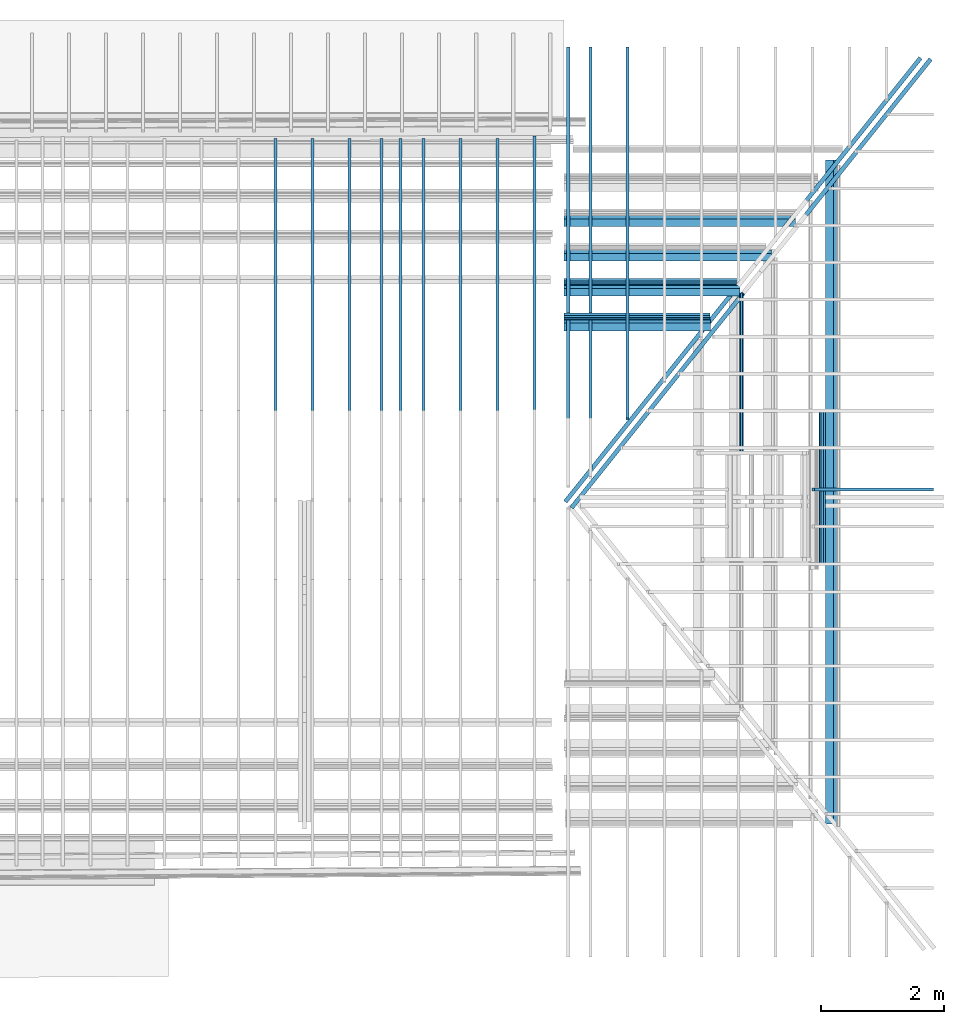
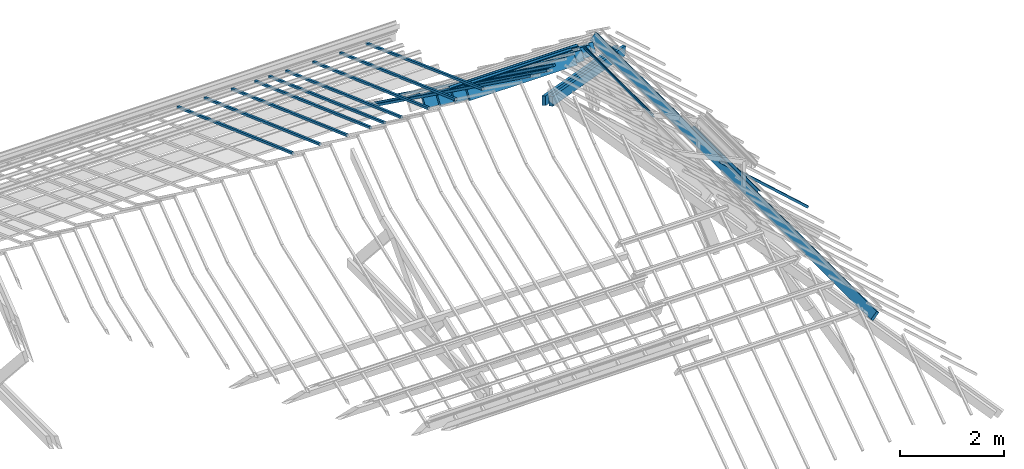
# One storey, part 14 of 18: 24 beams.
"""IFC2X3 building model written with IfcOpenShell, lengths in centimetres."""

import ifcopenshell
import ifcopenshell.guid

model = None  # the IFC model being written
_history = None  # IfcOwnerHistory: only IFC2X3 demands one
_inside = {}  # id of a spatial element -> (the spatial element, [elements in it])
_under = {}  # id of a project, library or spatial element -> (it, [spatial elements below it])
_declared = {}  # id of a project -> (the project, [libraries it declares])
_typed = {}  # id of a type object -> (the type object, [elements of that type])
_made_of = {}  # id of a material, layer set ... -> (it, [elements and type objects made of it])


def new_model(schema):
    """Start an empty IFC model of exactly this schema.

    Asked for "IFC4X3", IfcOpenShell would pick the latest addendum, in which some entities
    have other attributes; the version numbers below select the first issue.
    IFC2X3 requires an IfcOwnerHistory on every rooted entity: one is made here for all.
    """
    global model, _history
    if schema == "IFC4X3":
        model = ifcopenshell.file(schema_version=(4, 3, 0, 0))
    else:
        model = ifcopenshell.file(schema=schema)
    _inside.clear()
    _under.clear()
    _declared.clear()
    _typed.clear()
    _made_of.clear()
    _history = None
    if model.schema == "IFC2X3":
        org = make("IfcOrganization", Name="unknown")
        user = make(
            "IfcPersonAndOrganization",
            ThePerson=make("IfcPerson", FamilyName="unknown"),
            TheOrganization=org,
        )
        app = make(
            "IfcApplication",
            ApplicationDeveloper=org,
            Version="unknown",
            ApplicationFullName="unknown",
            ApplicationIdentifier="unknown",
        )
        _history = make(
            "IfcOwnerHistory",
            OwningUser=user,
            OwningApplication=app,
            ChangeAction="ADDED",
            CreationDate=0,
        )
    return model


def make(cls, **values):
    """One entity of the class cls with the attributes given. An attribute that is None is left unset."""
    return model.create_entity(
        cls, **{name: value for name, value in values.items() if value is not None}
    )


def entity(cls, *values):
    """Any entity or typed value of the class cls, its attributes in the order of the schema. None: left unset."""
    e = model.create_entity(cls)
    for i, value in enumerate(values):
        if value is not None:
            e[i] = value
    return e


def rooted(cls, **values):
    """An entity with a GlobalId (a new one), such as an element, a storey or a relation."""
    return make(cls, GlobalId=ifcopenshell.guid.new(), OwnerHistory=_history, **values)


def si_unit(unit_type, name, prefix=None):
    """IfcSIUnit, for example si_unit("LENGTHUNIT", "METRE", prefix="MILLI")."""
    return make("IfcSIUnit", UnitType=unit_type, Prefix=prefix, Name=name)


def converted_unit(unit_type, name, factor, base, dimensions=None, offset=None):
    """IfcConversionBasedUnit, such as the inch: factor (a typed value) times the base unit."""
    return make(
        "IfcConversionBasedUnit"
        if offset is None
        else "IfcConversionBasedUnitWithOffset",
        ConversionOffset=offset,
        Dimensions=None
        if dimensions is None
        else entity("IfcDimensionalExponents", *dimensions),
        UnitType=unit_type,
        Name=name,
        ConversionFactor=make(
            "IfcMeasureWithUnit", ValueComponent=factor, UnitComponent=base
        ),
    )


def assignment(units):
    """IfcUnitAssignment: the units of a project."""
    return None if units is None else make("IfcUnitAssignment", Units=units)


def point(xyz):
    """IfcCartesianPoint."""
    return None if xyz is None else make("IfcCartesianPoint", Coordinates=xyz)


def direction(xyz):
    """IfcDirection."""
    return None if xyz is None else make("IfcDirection", DirectionRatios=xyz)


def frame(location, z_axis=None, x_axis=None):
    """IfcAxis2Placement3D, a coordinate frame: its origin and axes. An axis left out is left unset."""
    return make(
        "IfcAxis2Placement3D",
        Location=point(location),
        Axis=direction(z_axis),
        RefDirection=direction(x_axis),
    )


def frame_2d(location, x_axis=None):
    """IfcAxis2Placement2D, a coordinate frame in the plane: its origin and x axis."""
    return make(
        "IfcAxis2Placement2D", Location=point(location), RefDirection=direction(x_axis)
    )


def origin():
    """The frame at (0, 0, 0) with its axes left unset."""
    return frame((0.0, 0.0, 0.0))


def place(relative_to, where):
    """IfcLocalPlacement: puts the frame where relative to a parent placement (None: the world)."""
    return make(
        "IfcLocalPlacement", PlacementRelTo=relative_to, RelativePlacement=where
    )


def context(
    kind, dimensions, precision=None, world=None, true_north=None, identifier=None
):
    """IfcGeometricRepresentationContext, for example the 3D "Model" context."""
    return make(
        "IfcGeometricRepresentationContext",
        ContextIdentifier=identifier,
        ContextType=kind,
        CoordinateSpaceDimension=dimensions,
        Precision=precision,
        WorldCoordinateSystem=world,
        TrueNorth=true_north,
    )


def subcontext(parent, identifier, kind, view, scale=None):
    """IfcGeometricRepresentationSubContext, for example "Body" below "Model"."""
    return make(
        "IfcGeometricRepresentationSubContext",
        ContextIdentifier=identifier,
        ContextType=kind,
        ParentContext=parent,
        TargetScale=scale,
        TargetView=view,
    )


def project(units=None, contexts=None):
    """IfcProject with its units and contexts."""
    return rooted(
        "IfcProject",
        Name="project",
        RepresentationContexts=contexts,
        UnitsInContext=assignment(units),
    )


def spatial(cls, under=None, at=None, **own):
    """A site, building, storey or space (cls), placed at a placement, below another one or the project."""
    s = rooted(cls, ObjectPlacement=at, **own)
    if under is not None:
        _under.setdefault(under.id(), (under, []))[1].append(s)
    return s


def polyline(points):
    """IfcPolyline through the points."""
    return make("IfcPolyline", Points=[point(p) for p in points])


def circle_curve(where, radius):
    """IfcCircle in the frame where."""
    return make("IfcCircle", Position=where, Radius=radius)


def parameter(value):
    """IfcParameterValue: where a trimmed curve begins or ends, as a parameter of its basis curve."""
    return model.create_entity("IfcParameterValue", value)


def trimmed(basis, trim1, trim2, sense, master):
    """IfcTrimmedCurve: the piece of a basis curve between two trims."""
    return make(
        "IfcTrimmedCurve",
        BasisCurve=basis,
        Trim1=trim1,
        Trim2=trim2,
        SenseAgreement=sense,
        MasterRepresentation=master,
    )


def segment(curve, same_sense, transition):
    """IfcCompositeCurveSegment."""
    return make(
        "IfcCompositeCurveSegment",
        Transition=transition,
        SameSense=same_sense,
        ParentCurve=curve,
    )


def composite_curve(segments, self_intersect=None):
    """IfcCompositeCurve: segments joined end to end."""
    return make("IfcCompositeCurve", Segments=segments, SelfIntersect=self_intersect)


def profile(cls, at=None, kind="AREA", **sizes):
    """A parametric profile (cls). Its sizes go by their IFC names, for example OverallWidth=200.0."""
    return make(cls, ProfileType=kind, Position=at, **sizes)


def rectangle(**sizes):
    """IfcRectangleProfileDef."""
    return profile("IfcRectangleProfileDef", **sizes)


def outline(outer, holes=None, kind="AREA"):
    """IfcArbitraryClosedProfileDef: a profile drawn as a closed curve; with holes, ...WithVoids."""
    if holes is None:
        return make("IfcArbitraryClosedProfileDef", ProfileType=kind, OuterCurve=outer)
    return make(
        "IfcArbitraryProfileDefWithVoids",
        ProfileType=kind,
        OuterCurve=outer,
        InnerCurves=holes,
    )


def extrude(swept, where, along, depth):
    """IfcExtrudedAreaSolid: the profile swept, set in the frame where, extruded along a direction by depth."""
    return make(
        "IfcExtrudedAreaSolid",
        SweptArea=swept,
        Position=where,
        ExtrudedDirection=direction(along),
        Depth=depth,
    )


def clip(a, b, op="DIFFERENCE"):
    """IfcBooleanClippingResult: the solid a cut by the half space b."""
    return make(
        "IfcBooleanClippingResult", Operator=op, FirstOperand=a, SecondOperand=b
    )


def halfspace(plane, agree):
    """IfcHalfSpaceSolid: all space on one side of the plane z = 0 of the frame plane."""
    return make(
        "IfcHalfSpaceSolid",
        BaseSurface=make("IfcPlane", Position=plane),
        AgreementFlag=agree,
    )


def shape(context_of_items, identifier, shape_type, items):
    """IfcShapeRepresentation: the items that make up one representation, for example the "Body"."""
    return make(
        "IfcShapeRepresentation",
        ContextOfItems=context_of_items,
        RepresentationIdentifier=identifier,
        RepresentationType=shape_type,
        Items=items,
    )


def material(Name=None, Category=None):
    """IfcMaterial."""
    return make("IfcMaterial", Name=Name, Category=Category)


def made_of(thing, what):
    """Note that an element or type object is made of a material, layer set ...; save() writes the relation."""
    if what is not None:
        _made_of.setdefault(what.id(), (what, []))[1].append(thing)
    return thing


def type_object(cls, material=None, **own):
    """A type object (cls), such as IfcWallType, which elements share."""
    return made_of(rooted(cls, **own), material)


def element(
    cls,
    number,
    at=None,
    inside=None,
    cuts=None,
    type_object=None,
    material=None,
    context=None,
    identifier="Body",
    shape_type=None,
    held_by="IfcProductDefinitionShape",
    body=None,
    shapes=None,
    **own,
):
    """One element of the class cls, such as IfcWall. Its Tag is "e" and its number.

    at: its placement. inside: the storey or other place that contains it. cuts: it is an
    opening in that element (IfcRelVoidsElement). A single representation is given by context,
    identifier, shape_type and body (its items); several are given by shapes. held_by: the class
    of the entity that holds the representations. save() writes the other relations.
    """
    e = rooted(cls, Tag="e%d" % number, ObjectPlacement=at, **own)
    if body is not None:
        shapes = [shape(context, identifier, shape_type, body)]
    if shapes is not None:
        e.Representation = make(held_by, Representations=shapes)
    if inside is not None:
        _inside.setdefault(inside.id(), (inside, []))[1].append(e)
    if cuts is not None:
        rooted(
            "IfcRelVoidsElement", RelatingBuildingElement=cuts, RelatedOpeningElement=e
        )
    if type_object is not None:
        _typed.setdefault(type_object.id(), (type_object, []))[1].append(e)
    return made_of(e, material)


def aggregate(whole, parts):
    """IfcRelAggregates: a whole, such as a stair, and the parts it consists of."""
    return rooted("IfcRelAggregates", RelatingObject=whole, RelatedObjects=parts)


def save(model, path):
    """Write the relations noted so far, then the file.

    IfcRelAggregates (storeys below a building ...), IfcRelContainedInSpatialStructure (elements
    in a storey), IfcRelDefinesByType, IfcRelAssociatesMaterial and IfcRelDeclares: one each for
    every whole, place, type object, material and project.
    """
    for whole, parts in _under.values():
        aggregate(whole, parts)
    for where, things in _inside.values():
        rooted(
            "IfcRelContainedInSpatialStructure",
            RelatedElements=things,
            RelatingStructure=where,
        )
    for kind, things in _typed.values():
        rooted("IfcRelDefinesByType", RelatedObjects=things, RelatingType=kind)
    for what, things in _made_of.values():
        rooted("IfcRelAssociatesMaterial", RelatedObjects=things, RelatingMaterial=what)
    for by, libraries in _declared.values():
        rooted("IfcRelDeclares", RelatingContext=by, RelatedDefinitions=libraries)
    model.write(path)


model = new_model("IFC2X3")

# Units and contexts
model_context = context("Model", 3, precision=0.001, world=frame((0.0, 0.0, 13090.0)), true_north=direction((6.123233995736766e-17, 1.0)))
body_context = subcontext(model_context, "Body", "Model", "MODEL_VIEW")
ifc_project = project(units=[si_unit("LENGTHUNIT", "METRE", prefix="CENTI"), si_unit("AREAUNIT", "SQUARE_METRE"), si_unit("VOLUMEUNIT", "CUBIC_METRE"), converted_unit("PLANEANGLEUNIT", "DEGREE", entity("IfcPlaneAngleMeasure", 0.017453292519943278), si_unit("PLANEANGLEUNIT", "RADIAN"), dimensions=[0, 0, 0, 0, 0, 0, 0])], contexts=[model_context])

# Site, building, storey
site_placement = place(None, origin())
site = spatial("IfcSite", under=ifc_project, at=site_placement, Name="Default", CompositionType="ELEMENT")
building_placement = place(site_placement, origin())
building = spatial("IfcBuilding", under=site, at=building_placement, Name="e 39 logements et 22 maisons relais", CompositionType="ELEMENT")
storey_placement = place(building_placement, frame((0.0, 0.0, 610.0)))
storey = spatial("IfcBuildingStorey", under=building, at=storey_placement, Name="R+2", CompositionType="ELEMENT", Elevation=609.9999999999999)

# Beams
ifc_material_1 = material(Name="Bois - Bois de construction de dimensions courantes")
beam_type_1 = type_object("IfcBeamType", Name="Poutre - Bois de construction de dimensions courantes:70 220", PredefinedType="BEAM")
beam_1_placement = place(storey_placement, frame((286.6348077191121, 437.8916832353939, -57.74464239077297)))
element("IfcBeam", 1, at=beam_1_placement, inside=storey, type_object=beam_type_1, material=ifc_material_1, Name="Poutre - Bois de construction de dimensions courantes:70 220", ObjectType="Poutre - Bois de construction de dimensions courantes:70 220", context=body_context, shape_type="SweptSolid", body=[
    extrude(rectangle(XDim=21.99999999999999, YDim=7.000000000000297, at=frame_2d((6.217248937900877e-14, -8.79296635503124e-14), x_axis=(0.0, 1.0))), frame((321.0552928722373, -6.309340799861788, -9.010672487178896), z_axis=(1.0, 0.0, 0.0), x_axis=(0.0, -0.8191520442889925, 0.5735764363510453)), (0.0, 0.0, 1.0), 375.51902726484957),
])
beam_2_placement = place(storey_placement, frame((286.6348077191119, 382.11669815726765, -17.461484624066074)))
element("IfcBeam", 2, at=beam_2_placement, inside=storey, type_object=beam_type_1, material=ifc_material_1, Name="Poutre - Bois de construction de dimensions courantes:70 220", ObjectType="Poutre - Bois de construction de dimensions courantes:70 220", context=body_context, shape_type="SweptSolid", body=[
    extrude(rectangle(XDim=21.9999999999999, YDim=7.00000000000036, at=frame_2d((8.393286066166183e-14, -7.283063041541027e-14), x_axis=(0.0, 1.0))), frame((321.0552928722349, -6.309340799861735, -9.010672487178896), z_axis=(1.0, 0.0, 0.0), x_axis=(0.0, -0.8191520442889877, 0.573576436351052)), (0.0, 0.0, 1.0), 336.12645602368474),
])
beam_3_placement = place(storey_placement, frame((287.24440771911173, 325.268597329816, 23.374444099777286)))
element("IfcBeam", 3, at=beam_3_placement, inside=storey, type_object=beam_type_1, material=ifc_material_1, Name="Poutre - Bois de construction de dimensions courantes:70 220", ObjectType="Poutre - Bois de construction de dimensions courantes:70 220", context=body_context, shape_type="SweptSolid", body=[
    extrude(rectangle(XDim=21.99999999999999, YDim=7.000000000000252, at=frame_2d((8.459899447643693e-14, -7.283063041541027e-14), x_axis=(0.0, 1.0))), frame((320.44569287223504, -6.309340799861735, -9.010672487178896), z_axis=(1.0, 0.0, 0.0), x_axis=(0.0, -0.8191520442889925, 0.5735764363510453)), (0.0, 0.0, 1.0), 285.28093766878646),
])
beam_4_placement = place(storey_placement, frame((286.6348077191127, 268.91101832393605, 64.20882057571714)))
element("IfcBeam", 4, at=beam_4_placement, inside=storey, type_object=beam_type_1, material=ifc_material_1, Name="Poutre - Bois de construction de dimensions courantes:70 220", ObjectType="Poutre - Bois de construction de dimensions courantes:70 220", context=body_context, shape_type="SweptSolid", body=[
    extrude(rectangle(XDim=21.99999999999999, YDim=7.000000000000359, at=frame_2d((4.39648317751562e-14, 3.108624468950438e-14), x_axis=(0.0, 1.0))), frame((321.05529287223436, -6.309340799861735, -9.010672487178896), z_axis=(1.0, 0.0, 0.0), x_axis=(0.0, -0.8191520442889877, 0.573576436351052)), (0.0, 0.0, 1.0), 236.9811081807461),
])
beam_type_2 = type_object("IfcBeamType", Name="Poutre - Bois de construction de dimensions courantes:70 200", PredefinedType="BEAM")
beam_5_placement = place(storey_placement, frame((1047.2835346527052, 514.0076677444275, -114.87575842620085), z_axis=(0.0, 0.0, 1.0), x_axis=(0.0, -1.0, 0.0)))
element("IfcBeam", 5, at=beam_5_placement, inside=storey, type_object=beam_type_2, material=ifc_material_1, Name="Poutre - Bois de construction de dimensions courantes:70 200", ObjectType="Poutre - Bois de construction de dimensions courantes:70 200", context=body_context, shape_type="SweptSolid", body=[
    extrude(rectangle(XDim=20.000000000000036, YDim=7.000000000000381, at=frame_2d((3.597122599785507e-14, -4.085620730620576e-14), x_axis=(0.0, 1.0))), frame((-16.402480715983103, -6.691306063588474, -7.431448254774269), z_axis=(1.0, 0.0, 0.0), x_axis=(0.0, -0.7431448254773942, 0.6691306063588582)), (0.0, 0.0, 1.0), 1076.1983960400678),
])
beam_6_placement = place(storey_placement, frame((944.9774638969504, 395.4746955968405, 41.26438352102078), z_axis=(0.3066122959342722, 0.3831192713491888, 0.8713257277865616), x_axis=(-0.544439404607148, -0.680289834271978, 0.49070508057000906)))
element("IfcBeam", 6, at=beam_6_placement, inside=storey, type_object=beam_type_2, material=ifc_material_1, Name="Poutre - Bois de construction de dimensions courantes:70 200", ObjectType="Poutre - Bois de construction de dimensions courantes:70 200", context=body_context, shape_type="Clipping", body=[
    clip(extrude(rectangle(XDim=20.000000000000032, YDim=7.000000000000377, at=frame_2d((-4.707345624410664e-14, 0.0), x_axis=(1.0, 0.0))), frame((-499.2166743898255, 0.0, -112.0), z_axis=(1.0, 0.0, 0.0), x_axis=(0.0, 0.0, -1.0)), (0.0, 0.0, 1.0), 1057.6298341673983), halfspace(frame((585.5654339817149, -1077.2700708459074, -68.0486338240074), z_axis=(0.7809677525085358, 0.0, -0.6245713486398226), x_axis=(0.0, 1.0, 0.0)), False)),
])
beam_7_placement = place(storey_placement, frame((955.4665799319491, 386.1753665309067, 41.66223729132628), z_axis=(0.3066122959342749, 0.3831192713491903, 0.8713257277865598), x_axis=(-0.5444394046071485, -0.6802898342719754, 0.49070508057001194)))
element("IfcBeam", 7, at=beam_7_placement, inside=storey, type_object=beam_type_2, material=ifc_material_1, Name="Poutre - Bois de construction de dimensions courantes:70 200", ObjectType="Poutre - Bois de construction de dimensions courantes:70 200", context=body_context, shape_type="Clipping", body=[
    clip(extrude(rectangle(XDim=19.999999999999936, YDim=7.000000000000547, at=frame_2d((3.6415315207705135e-14, -1.1857181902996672e-13), x_axis=(1.0, 0.0))), frame((-510.1810992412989, 0.0, -112.0), z_axis=(1.0, 0.0, 0.0), x_axis=(0.0, 0.0, -1.0)), (0.0, 0.0, 1.0), 1069.470140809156), halfspace(frame((586.4413157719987, -1089.1103774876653, -68.04863382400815), z_axis=(0.7809677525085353, 0.0, -0.6245713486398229), x_axis=(0.0, 1.0, 0.0)), False)),
])
ifc_material_2 = material(Name="neuf")
beam_type_3 = type_object("IfcBeamType", Name="panne z:panne z", PredefinedType="BEAM")
beam_8_placement = place(storey_placement, frame((907.6910789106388, 514.0076677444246, 48.760264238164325), z_axis=(0.0, 0.0, 1.0), x_axis=(0.0, -1.0, 0.0)))
element("IfcBeam", 8, at=beam_8_placement, inside=storey, type_object=beam_type_3, material=ifc_material_2, Name="panne z:panne z", ObjectType="panne z:panne z", context=body_context, shape_type="SweptSolid", body=[
    extrude(outline(composite_curve([segment(polyline([(0.300000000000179, -3.0), (4.600000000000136, -3.0)]), True, "CONTINUOUS"), segment(trimmed(circle_curve(frame_2d((4.600000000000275, -2.599999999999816), x_axis=(0.0, -1.0)), 0.399999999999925), [parameter(0.0)], [parameter(90.000000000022)], True, "PARAMETER"), True, "CONTINUOUS"), segment(polyline([(5.0, -2.59999999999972), (5.0, -1.0)]), True, "CONTINUOUS"), segment(polyline([(5.0, -1.0), (4.800000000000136, -1.0)]), True, "CONTINUOUS"), segment(polyline([(4.800000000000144, -1.0), (4.800000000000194, -2.599999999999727)]), True, "CONTINUOUS"), segment(trimmed(circle_curve(frame_2d((4.600000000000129, -2.599999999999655), x_axis=(1.0, 0.0)), 0.20000000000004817), [parameter(270.0000000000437)], [parameter(0.0)], True, "PARAMETER"), False, "CONTINUOUS"), segment(polyline([(4.600000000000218, -2.7999999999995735), (0.300000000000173, -2.7999999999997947)]), True, "CONTINUOUS"), segment(trimmed(circle_curve(frame_2d((0.30000000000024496, -2.5999999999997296), x_axis=(0.0, -1.0)), 0.2000000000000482), [parameter(270.0000000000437)], [parameter(0.0)], True, "PARAMETER"), False, "CONTINUOUS"), segment(polyline([(0.10000000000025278, -2.599999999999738), (0.10000000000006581, 2.6000000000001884)]), True, "CONTINUOUS"), segment(trimmed(circle_curve(frame_2d((-0.2999999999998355, 2.6000000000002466), x_axis=(1.0, 0.0)), 0.399999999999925), [parameter(0.0)], [parameter(90.000000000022)], True, "PARAMETER"), True, "CONTINUOUS"), segment(polyline([(-0.30000000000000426, 3.0), (-4.599999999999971, 3.0)]), True, "CONTINUOUS"), segment(trimmed(circle_curve(frame_2d((-4.600000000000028, 2.6000000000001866), x_axis=(0.0, 1.0)), 0.399999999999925), [parameter(0.0)], [parameter(90.000000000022)], True, "PARAMETER"), True, "CONTINUOUS"), segment(polyline([(-5.0, 2.6000000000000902), (-5.0, 1.0)]), True, "CONTINUOUS"), segment(polyline([(-5.0, 1.0), (-4.799999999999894, 1.0)]), True, "CONTINUOUS"), segment(polyline([(-4.799999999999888, 1.0), (-4.799999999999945, 2.6000000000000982)]), True, "CONTINUOUS"), segment(trimmed(circle_curve(frame_2d((-4.599999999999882, 2.6000000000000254), x_axis=(-1.0, 0.0)), 0.20000000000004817), [parameter(270.0000000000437)], [parameter(0.0)], True, "PARAMETER"), False, "CONTINUOUS"), segment(polyline([(-4.599999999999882, 2.8000000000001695), (-0.2999999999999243, 2.8000000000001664)]), True, "CONTINUOUS"), segment(trimmed(circle_curve(frame_2d((-0.2999999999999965, 2.600000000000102), x_axis=(0.0, 1.0)), 0.2000000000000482), [parameter(270.0000000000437)], [parameter(0.0)], True, "PARAMETER"), False, "CONTINUOUS"), segment(polyline([(-0.09999999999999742, 2.6000000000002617), (-0.0999999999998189, -2.599999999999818)]), True, "CONTINUOUS"), segment(trimmed(circle_curve(frame_2d((0.30000000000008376, -2.599999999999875), x_axis=(-1.0, 0.0)), 0.399999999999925), [parameter(0.0)], [parameter(90.000000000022)], True, "PARAMETER"), True, "CONTINUOUS")], self_intersect=False)), frame((199.43317290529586, -12.50098828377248, -13.883754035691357), z_axis=(1.0, 0.0, 0.0), x_axis=(0.0, -0.7431448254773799, 0.6691306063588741)), (0.0, 0.0, 1.0), 262.3723980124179),
])
beam_9_placement = place(storey_placement, frame((286.6348077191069, 334.4680428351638, 32.596849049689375)))
element("IfcBeam", 9, at=beam_9_placement, inside=storey, type_object=beam_type_3, material=ifc_material_2, Name="panne z:panne z", ObjectType="panne z:panne z", context=body_context, shape_type="SweptSolid", body=[
    extrude(outline(composite_curve([segment(polyline([(-4.6000000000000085, -3.0), (-0.3000000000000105, -3.0)]), True, "CONTINUOUS"), segment(trimmed(circle_curve(frame_2d((-0.29999999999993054, -2.600000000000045), x_axis=(0.0, -1.0)), 0.3999999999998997), [parameter(0.0)], [parameter(90.00000000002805)], True, "PARAMETER"), True, "CONTINUOUS"), segment(polyline([(0.1000000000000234, -2.6000000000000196), (0.10000000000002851, 2.600000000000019)]), True, "CONTINUOUS"), segment(trimmed(circle_curve(frame_2d((0.30000000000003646, 2.599999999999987), x_axis=(-1.0, 0.0)), 0.2000000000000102), [parameter(270.00000000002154)], [parameter(0.0)], True, "PARAMETER"), False, "CONTINUOUS"), segment(polyline([(0.30000000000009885, 2.799999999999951), (4.600000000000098, 2.799999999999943)]), True, "CONTINUOUS"), segment(trimmed(circle_curve(frame_2d((4.599999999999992, 2.599999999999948), x_axis=(0.0, 1.0)), 0.20000000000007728), [parameter(270.00000000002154)], [parameter(0.0)], True, "PARAMETER"), False, "CONTINUOUS"), segment(polyline([(4.800000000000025, 2.6000000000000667), (4.800000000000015, 1.0)]), True, "CONTINUOUS"), segment(polyline([(4.800000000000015, 1.0), (5.0, 1.0)]), True, "CONTINUOUS"), segment(polyline([(5.0, 1.0), (5.0, 2.6000000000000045)]), True, "CONTINUOUS"), segment(trimmed(circle_curve(frame_2d((4.600000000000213, 2.600000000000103), x_axis=(1.0, 0.0)), 0.39999999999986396), [parameter(0.0)], [parameter(90.00000000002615)], True, "PARAMETER"), True, "CONTINUOUS"), segment(polyline([(4.600000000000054, 3.0), (0.30000000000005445, 3.0)]), True, "CONTINUOUS"), segment(trimmed(circle_curve(frame_2d((0.2999999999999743, 2.600000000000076), x_axis=(0.0, 1.0)), 0.3999999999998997), [parameter(0.0)], [parameter(90.00000000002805)], True, "PARAMETER"), True, "CONTINUOUS"), segment(polyline([(-0.10000000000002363, 2.60000000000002), (-0.10000000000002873, -2.6000000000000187)]), True, "CONTINUOUS"), segment(trimmed(circle_curve(frame_2d((-0.2999999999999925, -2.599999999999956), x_axis=(1.0, 0.0)), 0.2000000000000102), [parameter(270.00000000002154)], [parameter(0.0)], True, "PARAMETER"), False, "CONTINUOUS"), segment(polyline([(-0.3000000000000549, -2.79999999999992), (-4.600000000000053, -2.799999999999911)]), True, "CONTINUOUS"), segment(trimmed(circle_curve(frame_2d((-4.599999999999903, -2.599999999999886), x_axis=(0.0, -1.0)), 0.20000000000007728), [parameter(270.00000000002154)], [parameter(0.0)], True, "PARAMETER"), False, "CONTINUOUS"), segment(polyline([(-4.799999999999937, -2.600000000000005), (-4.7999999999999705, -1.0)]), True, "CONTINUOUS"), segment(polyline([(-4.7999999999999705, -1.0), (-5.0, -1.0)]), True, "CONTINUOUS"), segment(polyline([(-5.0, -1.0), (-5.0, -2.6000000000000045)]), True, "CONTINUOUS"), segment(trimmed(circle_curve(frame_2d((-4.600000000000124, -2.6000000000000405), x_axis=(-1.0, 0.0)), 0.39999999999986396), [parameter(0.0)], [parameter(90.00000000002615)], True, "PARAMETER"), True, "CONTINUOUS")], self_intersect=False)), frame((321.0552928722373, -1.5385808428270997, -2.1973211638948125), z_axis=(1.0, 0.0, 0.0), x_axis=(0.0, -0.8191520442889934, 0.5735764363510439)), (0.0, 0.0, 1.0), 282.8964174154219),
])
beam_10_placement = place(storey_placement, frame((286.6348077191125, 278.140126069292, 73.32927965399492)))
element("IfcBeam", 10, at=beam_10_placement, inside=storey, type_object=beam_type_3, material=ifc_material_2, Name="panne z:panne z", ObjectType="panne z:panne z", context=body_context, shape_type="SweptSolid", body=[
    extrude(outline(composite_curve([segment(polyline([(-4.6000000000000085, -3.0), (-0.30000000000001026, -3.0)]), True, "CONTINUOUS"), segment(trimmed(circle_curve(frame_2d((-0.2999999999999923, -2.5999999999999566), x_axis=(0.0, -1.0)), 0.3999999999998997), [parameter(0.0)], [parameter(90.00000000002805)], True, "PARAMETER"), True, "CONTINUOUS"), segment(polyline([(0.10000000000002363, -2.60000000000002), (0.10000000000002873, 2.600000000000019)]), True, "CONTINUOUS"), segment(trimmed(circle_curve(frame_2d((0.29999999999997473, 2.600000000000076), x_axis=(-1.0, 0.0)), 0.2000000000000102), [parameter(270.00000000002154)], [parameter(0.0)], True, "PARAMETER"), False, "CONTINUOUS"), segment(polyline([(0.3000000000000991, 2.799999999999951), (4.600000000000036, 2.8000000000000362)]), True, "CONTINUOUS"), segment(trimmed(circle_curve(frame_2d((4.5999999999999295, 2.600000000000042), x_axis=(0.0, 1.0)), 0.20000000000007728), [parameter(270.00000000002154)], [parameter(0.0)], True, "PARAMETER"), False, "CONTINUOUS"), segment(polyline([(4.800000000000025, 2.6000000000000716), (4.799999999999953, 1.0)]), True, "CONTINUOUS"), segment(polyline([(4.800000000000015, 1.0), (5.0, 1.0)]), True, "CONTINUOUS"), segment(polyline([(5.0, 1.0), (5.0, 2.60000000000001)]), True, "CONTINUOUS"), segment(trimmed(circle_curve(frame_2d((4.600000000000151, 2.600000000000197), x_axis=(1.0, 0.0)), 0.39999999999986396), [parameter(0.0)], [parameter(90.00000000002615)], True, "PARAMETER"), True, "CONTINUOUS"), segment(polyline([(4.600000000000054, 3.0), (0.2999999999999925, 3.0)]), True, "CONTINUOUS"), segment(trimmed(circle_curve(frame_2d((0.29999999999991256, 2.600000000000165), x_axis=(0.0, 1.0)), 0.3999999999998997), [parameter(0.0)], [parameter(90.00000000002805)], True, "PARAMETER"), True, "CONTINUOUS"), segment(polyline([(-0.1000000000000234, 2.600000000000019), (-0.10000000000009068, -2.5999999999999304)]), True, "CONTINUOUS"), segment(trimmed(circle_curve(frame_2d((-0.30000000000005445, -2.599999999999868), x_axis=(1.0, 0.0)), 0.2000000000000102), [parameter(270.00000000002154)], [parameter(0.0)], True, "PARAMETER"), False, "CONTINUOUS"), segment(polyline([(-0.30000000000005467, -2.7999999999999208), (-4.600000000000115, -2.7999999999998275)]), True, "CONTINUOUS"), segment(trimmed(circle_curve(frame_2d((-4.599999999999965, -2.5999999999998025), x_axis=(0.0, -1.0)), 0.20000000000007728), [parameter(270.00000000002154)], [parameter(0.0)], True, "PARAMETER"), False, "CONTINUOUS"), segment(polyline([(-4.799999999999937, -2.6000000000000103), (-4.79999999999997, -1.0)]), True, "CONTINUOUS"), segment(polyline([(-4.79999999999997, -1.0), (-5.0, -1.0)]), True, "CONTINUOUS"), segment(polyline([(-5.0, -1.0), (-5.0, -2.5999999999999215)]), True, "CONTINUOUS"), segment(trimmed(circle_curve(frame_2d((-4.600000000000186, -2.5999999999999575), x_axis=(-1.0, 0.0)), 0.39999999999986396), [parameter(0.0)], [parameter(90.00000000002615)], True, "PARAMETER"), True, "CONTINUOUS")], self_intersect=False)), frame((321.0552928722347, -1.5385808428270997, -2.1973211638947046), z_axis=(1.0, 0.0, 0.0), x_axis=(0.0, -0.8191520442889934, 0.5735764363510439)), (0.0, 0.0, 1.0), 236.69567639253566),
])
beam_type_4 = type_object("IfcBeamType", Name="Poutre - Bois de construction de dimensions courantes:50 50", PredefinedType="BEAM")
beam_11_placement = place(storey_placement, frame((650.5865180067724, 597.229751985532, -81.5432023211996), z_axis=(0.0, 0.5855022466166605, 0.8106707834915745), x_axis=(0.0, -0.8106707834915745, 0.5855022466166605)))
element("IfcBeam", 11, at=beam_11_placement, inside=storey, type_object=beam_type_4, material=ifc_material_1, Name="Poutre - Bois de construction de dimensions courantes:50 50", ObjectType="Poutre - Bois de construction de dimensions courantes:50 50", context=body_context, shape_type="SweptSolid", body=[
    extrude(rectangle(XDim=5.000000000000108, YDim=5.000000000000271, at=frame_2d((2.19824158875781e-14, 5.417888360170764e-14), x_axis=(1.0, 0.0))), frame((-193.8321726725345, 0.0, -71.5000000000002), z_axis=(1.0, 0.0, 0.0), x_axis=(0.0, 0.0, -1.0)), (0.0, 0.0, 1.0), 841.5960032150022),
])
beam_12_placement = place(storey_placement, frame((139.8237665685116, 636.3639316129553, 59.23829359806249), z_axis=(0.0, 0.33913930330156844, 0.9407361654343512), x_axis=(0.0, -0.9407361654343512, 0.33913930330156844)))
element("IfcBeam", 12, at=beam_12_placement, inside=storey, type_object=beam_type_4, material=ifc_material_1, Name="Poutre - Bois de construction de dimensions courantes:50 50", ObjectType="Poutre - Bois de construction de dimensions courantes:50 50", context=body_context, shape_type="SweptSolid", body=[
    extrude(rectangle(XDim=4.999999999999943, YDim=5.000000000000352, at=frame_2d((-6.927791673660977e-14, 1.3322676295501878e-14), x_axis=(1.0, 0.0))), frame((50.61646000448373, 0.0, -71.50000000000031), z_axis=(1.0, 0.0, 0.0), x_axis=(0.0, 0.0, -1.0)), (0.0, 0.0, 1.0), 470.3229988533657),
])
beam_13_placement = place(storey_placement, frame((439.8590122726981, 636.3639316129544, 59.23829359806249), z_axis=(0.0, 0.33913930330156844, 0.9407361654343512), x_axis=(0.0, -0.9407361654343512, 0.33913930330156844)))
element("IfcBeam", 13, at=beam_13_placement, inside=storey, type_object=beam_type_4, material=ifc_material_1, Name="Poutre - Bois de construction de dimensions courantes:50 50", ObjectType="Poutre - Bois de construction de dimensions courantes:50 50", context=body_context, shape_type="SweptSolid", body=[
    extrude(rectangle(XDim=4.999999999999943, YDim=5.000000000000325, at=frame_2d((5.129230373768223e-14, 0.0), x_axis=(1.0, 0.0))), frame((50.61646000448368, 0.0, -71.5000000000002), z_axis=(1.0, 0.0, 0.0), x_axis=(0.0, 0.0, -1.0)), (0.0, 0.0, 1.0), 470.3229988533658),
])
beam_14_placement = place(storey_placement, frame((379.8590122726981, 636.3639316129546, 59.23829359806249), z_axis=(0.0, 0.33913930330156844, 0.9407361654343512), x_axis=(0.0, -0.9407361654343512, 0.33913930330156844)))
element("IfcBeam", 14, at=beam_14_placement, inside=storey, type_object=beam_type_4, material=ifc_material_1, Name="Poutre - Bois de construction de dimensions courantes:50 50", ObjectType="Poutre - Bois de construction de dimensions courantes:50 50", context=body_context, shape_type="SweptSolid", body=[
    extrude(rectangle(XDim=4.999999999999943, YDim=5.000000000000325, at=frame_2d((5.129230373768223e-14, 0.0), x_axis=(1.0, 0.0))), frame((50.61646000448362, 0.0, -71.5000000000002), z_axis=(1.0, 0.0, 0.0), x_axis=(0.0, 0.0, -1.0)), (0.0, 0.0, 1.0), 470.3229988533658),
])
beam_15_placement = place(storey_placement, frame((311.3505189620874, 636.3639316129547, 59.23829359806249), z_axis=(0.0, 0.33913930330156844, 0.9407361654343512), x_axis=(0.0, -0.9407361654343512, 0.33913930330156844)))
element("IfcBeam", 15, at=beam_15_placement, inside=storey, type_object=beam_type_4, material=ifc_material_1, Name="Poutre - Bois de construction de dimensions courantes:50 50", ObjectType="Poutre - Bois de construction de dimensions courantes:50 50", context=body_context, shape_type="SweptSolid", body=[
    extrude(rectangle(XDim=4.999999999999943, YDim=5.000000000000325, at=frame_2d((5.129230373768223e-14, 0.0), x_axis=(1.0, 0.0))), frame((50.61646000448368, 0.0, -71.5000000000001), z_axis=(1.0, 0.0, 0.0), x_axis=(0.0, 0.0, -1.0)), (0.0, 0.0, 1.0), 470.3229988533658),
])
beam_16_placement = place(storey_placement, frame((259.8590122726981, 636.363931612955, 59.23829359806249), z_axis=(0.0, 0.33913930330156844, 0.9407361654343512), x_axis=(0.0, -0.9407361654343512, 0.33913930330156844)))
element("IfcBeam", 16, at=beam_16_placement, inside=storey, type_object=beam_type_4, material=ifc_material_1, Name="Poutre - Bois de construction de dimensions courantes:50 50", ObjectType="Poutre - Bois de construction de dimensions courantes:50 50", context=body_context, shape_type="SweptSolid", body=[
    extrude(rectangle(XDim=4.999999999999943, YDim=5.000000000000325, at=frame_2d((5.129230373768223e-14, 0.0), x_axis=(1.0, 0.0))), frame((50.61646000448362, 0.0, -71.5000000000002), z_axis=(1.0, 0.0, 0.0), x_axis=(0.0, 0.0, -1.0)), (0.0, 0.0, 1.0), 470.3229988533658),
])
beam_17_placement = place(storey_placement, frame((199.8237665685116, 636.3639316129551, 59.23829359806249), z_axis=(0.0, 0.33913930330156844, 0.9407361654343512), x_axis=(0.0, -0.9407361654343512, 0.33913930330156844)))
element("IfcBeam", 17, at=beam_17_placement, inside=storey, type_object=beam_type_4, material=ifc_material_1, Name="Poutre - Bois de construction de dimensions courantes:50 50", ObjectType="Poutre - Bois de construction de dimensions courantes:50 50", context=body_context, shape_type="SweptSolid", body=[
    extrude(rectangle(XDim=4.999999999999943, YDim=5.000000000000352, at=frame_2d((-6.927791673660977e-14, 1.3322676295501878e-14), x_axis=(1.0, 0.0))), frame((50.616460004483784, 0.0, -71.5000000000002), z_axis=(1.0, 0.0, 0.0), x_axis=(0.0, 0.0, -1.0)), (0.0, 0.0, 1.0), 470.3229988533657),
])
beam_18_placement = place(storey_placement, frame((559.8590122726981, 636.7211324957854, 59.05503282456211), z_axis=(0.0, 0.3445643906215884, 0.9387626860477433), x_axis=(0.0, -0.9387626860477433, 0.3445643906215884)))
element("IfcBeam", 18, at=beam_18_placement, inside=storey, type_object=beam_type_4, material=ifc_material_1, Name="Poutre - Bois de construction de dimensions courantes:50 50", ObjectType="Poutre - Bois de construction de dimensions courantes:50 50", context=body_context, shape_type="SweptSolid", body=[
    extrude(rectangle(XDim=4.999999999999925, YDim=5.000000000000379, at=frame_2d((0.0, 5.417888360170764e-14), x_axis=(1.0, 0.0))), frame((46.47317023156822, 0.0, -71.49999999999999), z_axis=(1.0, 0.0, 0.0), x_axis=(0.0, 0.0, -1.0)), (0.0, 0.0, 1.0), 474.4662886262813),
])
beam_19_placement = place(storey_placement, frame((499.8590122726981, 636.3639316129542, 59.23829359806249), z_axis=(0.0, 0.33913930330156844, 0.9407361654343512), x_axis=(0.0, -0.9407361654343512, 0.33913930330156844)))
element("IfcBeam", 19, at=beam_19_placement, inside=storey, type_object=beam_type_4, material=ifc_material_1, Name="Poutre - Bois de construction de dimensions courantes:50 50", ObjectType="Poutre - Bois de construction de dimensions courantes:50 50", context=body_context, shape_type="SweptSolid", body=[
    extrude(rectangle(XDim=4.999999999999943, YDim=5.000000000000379, at=frame_2d((5.129230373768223e-14, -5.417888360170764e-14), x_axis=(1.0, 0.0))), frame((50.61646000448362, 0.0, -71.5000000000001), z_axis=(1.0, 0.0, 0.0), x_axis=(0.0, 0.0, -1.0)), (0.0, 0.0, 1.0), 470.3229988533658),
])
beam_20_placement = place(storey_placement, frame((342.7505189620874, 636.3639316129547, 59.23829359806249), z_axis=(0.0, 0.33913930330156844, 0.9407361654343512), x_axis=(0.0, -0.9407361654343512, 0.33913930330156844)))
element("IfcBeam", 20, at=beam_20_placement, inside=storey, type_object=beam_type_4, material=ifc_material_1, Name="Poutre - Bois de construction de dimensions courantes:50 50", ObjectType="Poutre - Bois de construction de dimensions courantes:50 50", context=body_context, shape_type="SweptSolid", body=[
    extrude(rectangle(XDim=4.999999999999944, YDim=5.000000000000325, at=frame_2d((-6.94999613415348e-14, 0.0), x_axis=(1.0, 0.0))), frame((50.61646000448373, 0.0, -71.5000000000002), z_axis=(1.0, 0.0, 0.0), x_axis=(0.0, 0.0, -1.0)), (0.0, 0.0, 1.0), 470.3229988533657),
])
beam_21_placement = place(storey_placement, frame((1162.8026094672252, -3.7089473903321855, -101.76753435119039), z_axis=(0.6684032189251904, 0.0, 0.7437991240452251), x_axis=(-0.7437991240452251, 0.0, 0.6684032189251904)))
element("IfcBeam", 21, at=beam_21_placement, inside=storey, type_object=beam_type_4, material=ifc_material_1, Name="Poutre - Bois de construction de dimensions courantes:50 50", ObjectType="Poutre - Bois de construction de dimensions courantes:50 50", context=body_context, shape_type="SweptSolid", body=[
    extrude(rectangle(XDim=5.0000000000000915, YDim=5.000000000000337, at=frame_2d((-1.9984014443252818e-14, 0.0), x_axis=(1.0, 0.0))), frame((-132.34226754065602, 0.0, -84.50000000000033), z_axis=(1.0, 0.0, 0.0), x_axis=(0.0, 0.0, -1.0)), (0.0, 0.0, 1.0), 259.6661692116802),
])
beam_22_placement = place(storey_placement, frame((710.5865180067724, 597.2297519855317, -81.5432023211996), z_axis=(0.0, 0.5855022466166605, 0.8106707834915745), x_axis=(0.0, -0.8106707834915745, 0.5855022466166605)))
element("IfcBeam", 22, at=beam_22_placement, inside=storey, type_object=beam_type_4, material=ifc_material_1, Name="Poutre - Bois de construction de dimensions courantes:50 50", ObjectType="Poutre - Bois de construction de dimensions courantes:50 50", context=body_context, shape_type="SweptSolid", body=[
    extrude(rectangle(XDim=5.000000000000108, YDim=5.000000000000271, at=frame_2d((-2.19824158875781e-14, 5.417888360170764e-14), x_axis=(1.0, 0.0))), frame((-193.8321726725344, 0.0, -71.5000000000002), z_axis=(1.0, 0.0, 0.0), x_axis=(0.0, 0.0, -1.0)), (0.0, 0.0, 1.0), 742.3752986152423),
])
beam_23_placement = place(storey_placement, frame((614.4865180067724, 597.2297519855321, -81.5432023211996), z_axis=(0.0, 0.5855022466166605, 0.8106707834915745), x_axis=(0.0, -0.8106707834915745, 0.5855022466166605)))
element("IfcBeam", 23, at=beam_23_placement, inside=storey, type_object=beam_type_4, material=ifc_material_1, Name="Poutre - Bois de construction de dimensions courantes:50 50", ObjectType="Poutre - Bois de construction de dimensions courantes:50 50", context=body_context, shape_type="SweptSolid", body=[
    extrude(rectangle(XDim=5.000000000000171, YDim=5.000000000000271, at=frame_2d((6.550315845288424e-14, 5.417888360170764e-14), x_axis=(1.0, 0.0))), frame((-193.83217267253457, 0.0, -71.50000000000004), z_axis=(1.0, 0.0, 0.0), x_axis=(0.0, 0.0, -1.0)), (0.0, 0.0, 1.0), 841.596003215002),
])
beam_type_5 = type_object("IfcBeamType", Name="panne z inv:panne z inv", PredefinedType="BEAM")
beam_24_placement = place(storey_placement, frame((1013.5709604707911, 112.18601779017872, -95.56632780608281), z_axis=(0.0, 0.0, 1.0), x_axis=(0.0, -1.0, 0.0)))
element("IfcBeam", 24, at=beam_24_placement, inside=storey, type_object=beam_type_5, material=ifc_material_2, Name="panne z inv:panne z inv", ObjectType="panne z inv:panne z inv", context=body_context, shape_type="SweptSolid", body=[
    extrude(outline(composite_curve([segment(polyline([(2.799999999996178, 4.600000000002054), (2.7999999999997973, 0.3000000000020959)]), True, "CONTINUOUS"), segment(trimmed(circle_curve(frame_2d((2.599999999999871, 0.30000000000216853), x_axis=(0.0, -1.0)), 0.20000000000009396), [parameter(0.0)], [parameter(89.99999999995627)], True, "PARAMETER"), False, "CONTINUOUS"), segment(polyline([(2.5999999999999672, 0.10000000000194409), (-2.600000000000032, 0.09999999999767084)]), True, "CONTINUOUS"), segment(trimmed(circle_curve(frame_2d((-2.5999999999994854, -0.3000000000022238), x_axis=(-1.0, 0.0)), 0.3999999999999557), [parameter(269.9999999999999)], [parameter(0.0)], True, "PARAMETER"), True, "CONTINUOUS"), segment(polyline([(-3.0, -0.3000000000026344), (-3.0, -4.6000000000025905)]), True, "CONTINUOUS"), segment(trimmed(circle_curve(frame_2d((-2.5999999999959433, -4.600000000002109), x_axis=(0.0, -1.0)), 0.4000000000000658), [parameter(270.0000000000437)], [parameter(0.0)], True, "PARAMETER"), True, "CONTINUOUS"), segment(polyline([(-2.5999999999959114, -5.0), (-1.0, -5.0)]), True, "CONTINUOUS"), segment(polyline([(-1.0, -5.0), (-1.0, -4.800000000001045)]), True, "CONTINUOUS"), segment(polyline([(-1.0, -4.800000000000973), (-2.5999999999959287, -4.800000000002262)]), True, "CONTINUOUS"), segment(trimmed(circle_curve(frame_2d((-2.5999999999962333, -4.6000000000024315), x_axis=(-1.0, 0.0)), 0.19999999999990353), [parameter(0.0)], [parameter(90.00000000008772)], True, "PARAMETER"), False, "CONTINUOUS"), segment(polyline([(-2.799999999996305, -4.600000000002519), (-2.7999999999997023, -0.3000000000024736)]), True, "CONTINUOUS"), segment(trimmed(circle_curve(frame_2d((-2.599999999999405, -0.30000000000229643), x_axis=(0.0, 1.0)), 0.20000000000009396), [parameter(0.0)], [parameter(89.99999999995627)], True, "PARAMETER"), False, "CONTINUOUS"), segment(polyline([(-2.599999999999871, -0.10000000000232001), (2.6000000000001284, -0.09999999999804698)]), True, "CONTINUOUS"), segment(trimmed(circle_curve(frame_2d((2.5999999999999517, 0.30000000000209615), x_axis=(1.0, 0.0)), 0.3999999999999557), [parameter(269.9999999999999)], [parameter(0.0)], True, "PARAMETER"), True, "CONTINUOUS"), segment(polyline([(3.0, 0.300000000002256), (3.0, 4.6000000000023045)]), True, "CONTINUOUS"), segment(trimmed(circle_curve(frame_2d((2.5999999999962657, 4.600000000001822), x_axis=(0.0, 1.0)), 0.4000000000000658), [parameter(270.0000000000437)], [parameter(0.0)], True, "PARAMETER"), True, "CONTINUOUS"), segment(polyline([(2.5999999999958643, 5.0), (1.0, 5.0)]), True, "CONTINUOUS"), segment(polyline([(1.0, 5.0), (1.0, 4.800000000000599)]), True, "CONTINUOUS"), segment(polyline([(1.0, 4.800000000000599), (2.5999999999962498, 4.800000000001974)]), True, "CONTINUOUS"), segment(trimmed(circle_curve(frame_2d((2.599999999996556, 4.600000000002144), x_axis=(1.0, 0.0)), 0.19999999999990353), [parameter(0.0)], [parameter(90.00000000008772)], True, "PARAMETER"), False, "CONTINUOUS")], self_intersect=False)), frame((-14.250000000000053, 12.50098828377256, 13.883754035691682), z_axis=(-1.0, 0.0, 0.0), x_axis=(0.0, -0.6691306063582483, -0.7431448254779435)), (0.0, 0.0, -1.0), 250.00000000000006),
])

save(model, "model.ifc")
